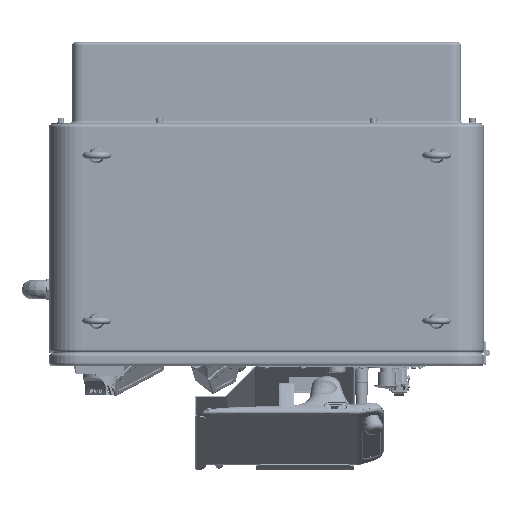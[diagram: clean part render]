
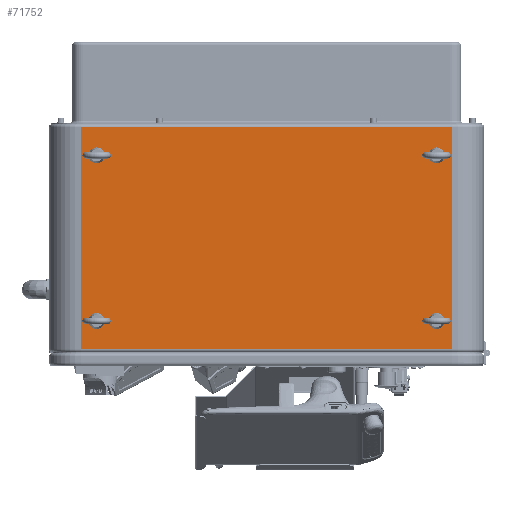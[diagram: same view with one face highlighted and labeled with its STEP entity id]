
A CAD part, top view. The second image highlights one B-rep face of the part: STEP entity #71752.
In plain terms, the highlighted planar face has unit normal (0, 0, 1).
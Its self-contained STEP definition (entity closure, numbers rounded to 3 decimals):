
#13497=PLANE('',#235941);
#36630=LINE('',#368866,#55257);
#36668=LINE('',#368960,#55295);
#36671=LINE('',#368971,#55298);
#36672=LINE('',#368972,#55299);
#55257=VECTOR('',#270442,1.);
#55295=VECTOR('',#270536,1.);
#55298=VECTOR('',#270551,1.);
#55299=VECTOR('',#270552,1.);
#71752=ADVANCED_FACE('',(#82850,#82851,#82852,#82853,#82854),#13497,.T.);
#82850=FACE_BOUND('',#90290,.T.);
#82851=FACE_BOUND('',#90291,.T.);
#82852=FACE_BOUND('',#90292,.T.);
#82853=FACE_BOUND('',#90293,.T.);
#82854=FACE_BOUND('',#90294,.T.);
#90290=EDGE_LOOP('',(#126372));
#90291=EDGE_LOOP('',(#126373));
#90292=EDGE_LOOP('',(#126374));
#90293=EDGE_LOOP('',(#126375));
#90294=EDGE_LOOP('',(#126376,#126377,#126378,#126379));
#126372=ORIENTED_EDGE('',*,*,#200687,.T.);
#126373=ORIENTED_EDGE('',*,*,#200694,.T.);
#126374=ORIENTED_EDGE('',*,*,#200701,.T.);
#126375=ORIENTED_EDGE('',*,*,#200708,.T.);
#126376=ORIENTED_EDGE('',*,*,#200844,.T.);
#126377=ORIENTED_EDGE('',*,*,#200788,.T.);
#126378=ORIENTED_EDGE('',*,*,#200845,.F.);
#126379=ORIENTED_EDGE('',*,*,#200838,.T.);
#174340=VERTEX_POINT('',#368361);
#174345=VERTEX_POINT('',#368421);
#174350=VERTEX_POINT('',#368481);
#174355=VERTEX_POINT('',#368541);
#174405=VERTEX_POINT('',#368855);
#174407=VERTEX_POINT('',#368861);
#174435=VERTEX_POINT('',#368955);
#174437=VERTEX_POINT('',#368961);
#200687=EDGE_CURVE('',#174340,#174340,#223685,.T.);
#200694=EDGE_CURVE('',#174345,#174345,#223688,.T.);
#200701=EDGE_CURVE('',#174350,#174350,#223691,.T.);
#200708=EDGE_CURVE('',#174355,#174355,#223694,.T.);
#200788=EDGE_CURVE('',#174407,#174405,#36630,.T.);
#200838=EDGE_CURVE('',#174437,#174435,#36668,.T.);
#200844=EDGE_CURVE('',#174435,#174407,#36671,.T.);
#200845=EDGE_CURVE('',#174437,#174405,#36672,.T.);
#223685=CIRCLE('',#235833,12.65);
#223688=CIRCLE('',#235840,12.65);
#223691=CIRCLE('',#235847,12.65);
#223694=CIRCLE('',#235854,12.65);
#235833=AXIS2_PLACEMENT_3D('',#368360,#270255,#270256);
#235840=AXIS2_PLACEMENT_3D('',#368420,#270269,#270270);
#235847=AXIS2_PLACEMENT_3D('',#368480,#270283,#270284);
#235854=AXIS2_PLACEMENT_3D('',#368540,#270297,#270298);
#235941=AXIS2_PLACEMENT_3D('',#368973,#270553,#270554);
#270255=DIRECTION('',(0.,0.,-1.));
#270256=DIRECTION('',(0.,1.,0.));
#270269=DIRECTION('',(0.,0.,-1.));
#270270=DIRECTION('',(0.,1.,0.));
#270283=DIRECTION('',(0.,0.,-1.));
#270284=DIRECTION('',(0.,1.,0.));
#270297=DIRECTION('',(0.,0.,-1.));
#270298=DIRECTION('',(0.,1.,0.));
#270442=DIRECTION('',(-1.,0.,0.));
#270536=DIRECTION('',(1.,0.,0.));
#270551=DIRECTION('',(0.,1.,0.));
#270552=DIRECTION('',(0.,1.,0.));
#270553=DIRECTION('',(0.,0.,1.));
#270554=DIRECTION('',(1.,0.,0.));
#368360=CARTESIAN_POINT('',(615.,313.,750.));
#368361=CARTESIAN_POINT('',(615.,325.65,750.));
#368420=CARTESIAN_POINT('',(75.,313.,750.));
#368421=CARTESIAN_POINT('',(75.,325.65,750.));
#368480=CARTESIAN_POINT('',(615.,50.,750.));
#368481=CARTESIAN_POINT('',(615.,62.65,750.));
#368540=CARTESIAN_POINT('',(75.,50.,750.));
#368541=CARTESIAN_POINT('',(75.,62.65,750.));
#368855=CARTESIAN_POINT('',(50.,358.,750.));
#368861=CARTESIAN_POINT('',(640.,358.,750.));
#368866=CARTESIAN_POINT('',(50.,358.,750.));
#368955=CARTESIAN_POINT('',(640.,5.,750.));
#368960=CARTESIAN_POINT('',(50.,5.,750.));
#368961=CARTESIAN_POINT('',(50.,5.,750.));
#368971=CARTESIAN_POINT('',(640.,0.,750.));
#368972=CARTESIAN_POINT('',(50.,0.,750.));
#368973=CARTESIAN_POINT('',(50.,0.,750.));
